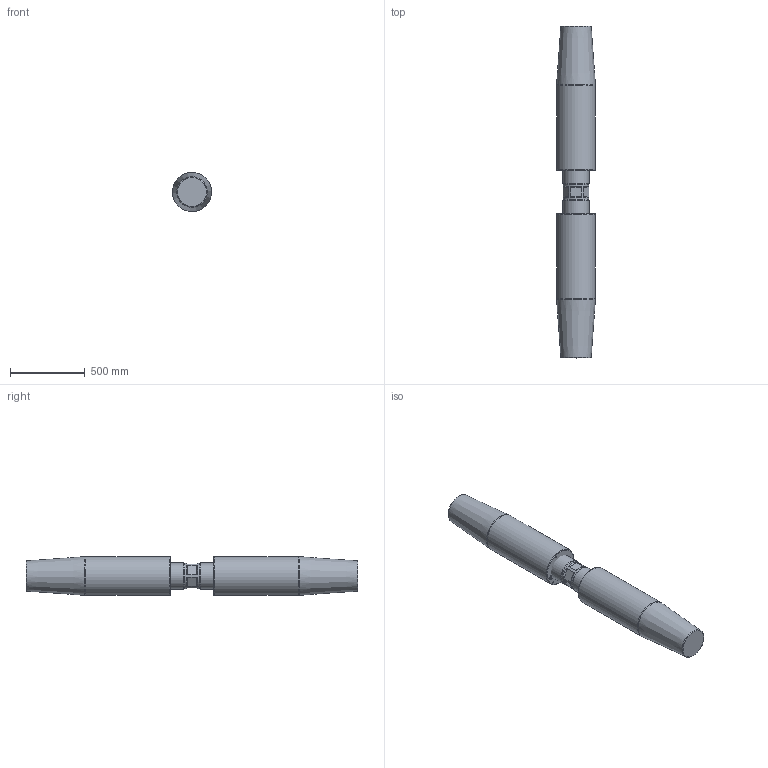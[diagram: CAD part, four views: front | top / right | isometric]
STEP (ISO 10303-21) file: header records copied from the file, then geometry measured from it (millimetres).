
FILE_DESCRIPTION(/* description */ (''),/* implementation_level */ '2;1');
FILE_NAME(/* name */ 'D:\Clienti\Redaelli (inventor)\CYA\STEP\Arrangement\CYA088 52 061 2.stp',/* time_stamp */ '2021-05-09T10:29:05+02:00',/* author */ ('fabri'),/* organization */ (''),/* preprocessor_version */ 'ST-DEVELOPER v16.13',/* originating_system */ 'Autodesk Inventor 2018',/* authorisation */ '');
FILE_SCHEMA (('AUTOMOTIVE_DESIGN { 1 0 10303 214 3 1 1 }'));
Length unit declared in the file: millimetre
Products named in the file (4): CYA012-54-062-0; TBF012-12-012-1; TBF012-13-012-0; TBF012-13-012-0_1
Assembly tree (3 placements, depth 2):
  CYA012-54-062-0
    TBF012-12-012-1
    TBF012-13-012-0
    TBF012-13-012-0_1
Bounding box: 259.82 x 2218 x 259.82 mm (x, y, z)
Volume: 117708573.6 mm3; surface area: 2280672.3 mm2
Topology: 3 solids, 3 shells, 535 faces, 1416 edges, 942 vertices
Faces by surface type: bspline 306, plane 186, cylinder 25, cone 14, torus 4
Full cylindrical faces by diameter (mm): 10.106 x6, 17.294 x2, 171 x1, 175 x2, 260 x2
Entity records: 18430 total; most frequent: CARTESIAN_POINT 7317, ORIENTED_EDGE 2754, EDGE_CURVE 1377, DIRECTION 1255, VERTEX_POINT 934, LINE 703, VECTOR 703, B_SPLINE_CURVE_WITH_KNOTS 632
